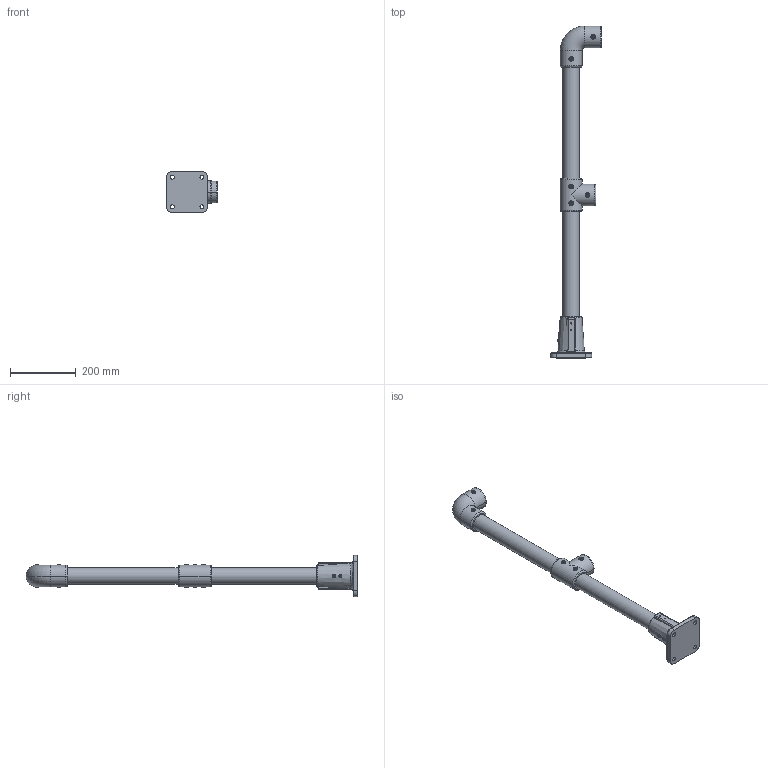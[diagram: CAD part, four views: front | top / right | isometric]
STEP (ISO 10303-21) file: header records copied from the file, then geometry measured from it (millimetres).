
FILE_DESCRIPTION(/* description */ (''),/* implementation_level */ '2;1');
FILE_NAME(/* name */ 'W:\8 Drafting Support\3 Product Drawings\Handrails\3D Models\MHST-02\MHST-02_PH01.stp',/* time_stamp */ '2025-03-11T12:05:32+10:00',/* author */ ('Callum'),/* organization */ (''),/* preprocessor_version */ 'ST-DEVELOPER v18.1',/* originating_system */ 'Autodesk Inventor 2022',/* authorisation */ '');
FILE_SCHEMA (('AUTOMOTIVE_DESIGN { 1 0 10303 214 3 1 1 }'));
Products named in the file (15): MHST-02_PH01; MHST-02 BASE SKETCH; MH2-90 DEGREE CONNECTOR - Y; MH2-90 Elbow-Y; MH2-90 elbow; MH3-Wcross Connector_PH01; MHR-M6-304; M6x8 Barrel Nut; M6x50 Soc Head Screw; MH3-W Cross-Y; MH3-Wcross connector 1; MH1-4 Base-IB-VY_PH01; MH1-4 Base-IB-VY; 10Gx25-G410-W-SD-SQ2; MHST-02-SN
Assembly tree (21 placements, depth 4):
  MHST-02_PH01
    MHST-02 BASE SKETCH
    MH2-90 DEGREE CONNECTOR - Y
      MH2-90 Elbow-Y
        MH2-90 elbow  x2
      MHR-M6-304  x2
        M6x8 Barrel Nut
        M6x50 Soc Head Screw
    MH3-Wcross Connector_PH01
      MHR-M6-304  x3
        M6x8 Barrel Nut
        M6x50 Soc Head Screw
      MH3-W Cross-Y
        MH3-Wcross connector 1  x2
    MH1-4 Base-IB-VY_PH01
      MH1-4 Base-IB-VY
      10Gx25-G410-W-SD-SQ2  x2
    MHST-02-SN
Bounding box: 154.5 x 1008 x 125 mm (x, y, z)
Volume: 1600926 mm3; surface area: 481388 mm2
Topology: 18 solids, 18 shells, 643 faces, 1619 edges, 1074 vertices
Faces by surface type: plane 324, cylinder 137, bspline 84, torus 46, cone 40, sphere 12
Full cylindrical faces by diameter (mm): 3.05 x12, 3.9 x2, 4 x8, 4.8 x2, 5 x5, 6 x5, 8 x5, 8.5 x10, 10 x2, 12 x4, 14 x10, 40 x1, 50 x1
Entity records: 19404 total; most frequent: CARTESIAN_POINT 8631, ORIENTED_EDGE 2262, DIRECTION 1897, EDGE_CURVE 1131, VERTEX_POINT 741, LINE 635, VECTOR 635, AXIS2_PLACEMENT_3D 631
